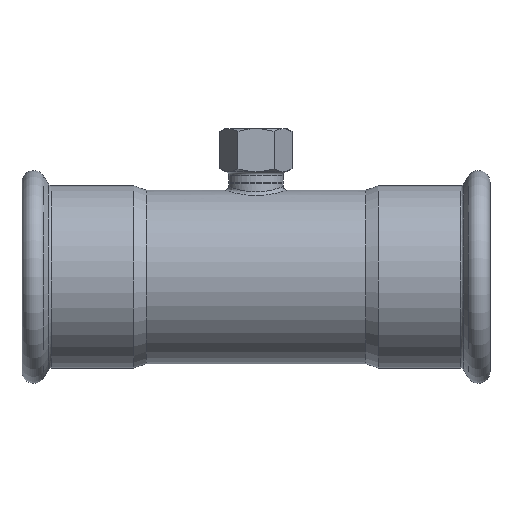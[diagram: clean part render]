
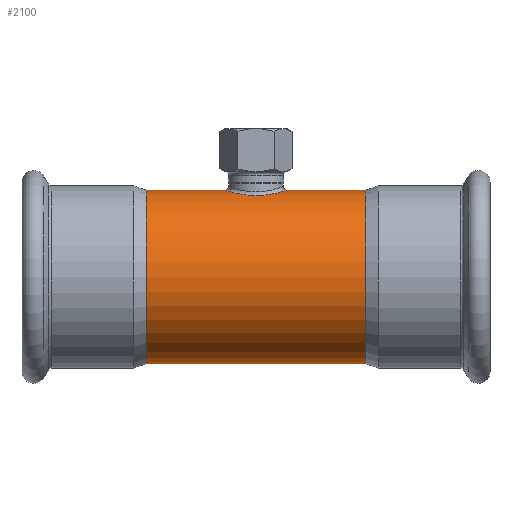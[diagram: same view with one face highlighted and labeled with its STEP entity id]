
A CAD part, top view. The second image highlights one B-rep face of the part: STEP entity #2100.
In plain terms, the highlighted cylindrical face has radius 44.45 mm (diameter 88.9 mm), a full revolution.
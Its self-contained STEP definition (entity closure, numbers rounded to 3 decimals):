
#1911=CARTESIAN_POINT('',(0.,41.73,15.311));
#1912=VERTEX_POINT('',#1911);
#1985=CARTESIAN_POINT('',(0.,41.73,15.311));
#1986=CARTESIAN_POINT('',(0.45,41.73,15.311));
#1987=CARTESIAN_POINT('',(1.051,41.739,15.287));
#1988=CARTESIAN_POINT('',(2.249,41.78,15.173));
#1989=CARTESIAN_POINT('',(4.17,41.894,14.86));
#1990=CARTESIAN_POINT('',(6.315,42.146,14.14));
#1991=CARTESIAN_POINT('',(7.898,42.406,13.326));
#1992=CARTESIAN_POINT('',(8.912,42.589,12.733));
#1993=CARTESIAN_POINT('',(10.484,42.903,11.664));
#1994=CARTESIAN_POINT('',(11.903,43.25,10.307));
#1995=CARTESIAN_POINT('',(13.109,43.573,8.805));
#1996=CARTESIAN_POINT('',(13.978,43.818,7.54));
#1997=CARTESIAN_POINT('',(14.94,44.109,5.639));
#1998=CARTESIAN_POINT('',(15.59,44.316,3.633));
#1999=CARTESIAN_POINT('',(15.863,44.405,2.114));
#2000=CARTESIAN_POINT('',(16.015,44.455,0.582));
#2001=CARTESIAN_POINT('',(16.016,44.455,-1.144));
#2002=CARTESIAN_POINT('',(15.684,44.346,-3.248));
#2003=CARTESIAN_POINT('',(15.24,44.204,-4.714));
#2004=CARTESIAN_POINT('',(14.822,44.074,-5.789));
#2005=CARTESIAN_POINT('',(14.42,43.951,-6.666));
#2006=CARTESIAN_POINT('',(13.764,43.757,-7.851));
#2007=CARTESIAN_POINT('',(12.888,43.511,-9.126));
#2008=CARTESIAN_POINT('',(11.881,43.247,-10.288));
#2009=CARTESIAN_POINT('',(10.618,42.943,-11.498));
#2010=CARTESIAN_POINT('',(9.058,42.607,-12.689));
#2011=CARTESIAN_POINT('',(7.003,42.248,-13.83));
#2012=CARTESIAN_POINT('',(4.757,41.958,-14.68));
#2013=CARTESIAN_POINT('',(2.792,41.803,-15.11));
#2014=CARTESIAN_POINT('',(1.203,41.74,-15.282));
#2015=CARTESIAN_POINT('',(-0.003,41.724,-15.326));
#2016=CARTESIAN_POINT('',(-1.208,41.741,-15.282));
#2017=CARTESIAN_POINT('',(-2.797,41.803,-15.109));
#2018=CARTESIAN_POINT('',(-4.764,41.959,-14.678));
#2019=CARTESIAN_POINT('',(-6.629,42.2,-13.971));
#2020=CARTESIAN_POINT('',(-8.027,42.427,-13.261));
#2021=CARTESIAN_POINT('',(-9.375,42.675,-12.449));
#2022=CARTESIAN_POINT('',(-10.622,42.944,-11.494));
#2023=CARTESIAN_POINT('',(-11.744,43.214,-10.419));
#2024=CARTESIAN_POINT('',(-12.772,43.479,-9.276));
#2025=CARTESIAN_POINT('',(-13.748,43.751,-7.911));
#2026=CARTESIAN_POINT('',(-14.601,44.006,-6.322));
#2027=CARTESIAN_POINT('',(-15.184,44.186,-4.906));
#2028=CARTESIAN_POINT('',(-15.694,44.349,-3.183));
#2029=CARTESIAN_POINT('',(-15.956,44.435,-1.528));
#2030=CARTESIAN_POINT('',(-16.015,44.455,0.003));
#2031=CARTESIAN_POINT('',(-15.97,44.44,1.157));
#2032=CARTESIAN_POINT('',(-15.81,44.388,2.497));
#2033=CARTESIAN_POINT('',(-15.481,44.281,3.993));
#2034=CARTESIAN_POINT('',(-14.852,44.082,5.816));
#2035=CARTESIAN_POINT('',(-13.885,43.79,7.721));
#2036=CARTESIAN_POINT('',(-12.321,43.352,9.907));
#2037=CARTESIAN_POINT('',(-10.477,42.901,11.671));
#2038=CARTESIAN_POINT('',(-8.539,42.515,12.985));
#2039=CARTESIAN_POINT('',(-6.977,42.251,13.815));
#2040=CARTESIAN_POINT('',(-5.312,42.028,14.477));
#2041=CARTESIAN_POINT('',(-3.015,41.803,15.114));
#2042=CARTESIAN_POINT('',(-1.2,41.73,15.311));
#2043=CARTESIAN_POINT('',(0.,41.73,15.311));
#2044=B_SPLINE_CURVE_WITH_KNOTS('',3,(#1985,#1986,#1987,#1988,#1989,#1990,#1991,#1992,#1993,#1994,#1995,#1996,#1997,#1998,#1999,#2000,#2001,#2002,#2003,#2004,#2005,#2006,#2007,#2008,#2009,#2010,#2011,#2012,#2013,#2014,#2015,#2016,#2017,#2018,#2019,#2020,#2021,#2022,#2023,#2024,#2025,#2026,#2027,#2028,#2029,#2030,#2031,#2032,#2033,#2034,#2035,#2036,#2037,#2038,#2039,#2040,#2041,#2042,#2043),.UNSPECIFIED.,.T.,.U.,(4,1,1,1,1,1,1,1,1,1,1,1,1,1,1,1,1,1,1,1,1,1,1,1,1,1,1,1,1,1,1,1,1,1,1,1,1,1,1,1,1,1,1,1,1,1,1,1,1,1,1,1,1,1,1,1,4),(-8.501,-8.387,-8.349,-8.197,-7.893,-7.78,-7.742,-7.59,-7.286,-7.236,-7.084,-6.881,-6.679,-6.527,-6.477,-6.274,-6.072,-5.92,-5.869,-5.768,-5.667,-5.515,-5.364,-5.262,-5.06,-4.858,-4.655,-4.453,-4.352,-4.25,-4.149,-4.048,-3.846,-3.643,-3.542,-3.441,-3.238,-3.137,-3.036,-2.834,-2.699,-2.564,-2.429,-2.226,-2.125,-2.024,-1.923,-1.771,-1.619,-1.417,-1.214,-0.911,-0.759,-0.607,-0.455,-0.304,0.0),.UNSPECIFIED.);
#2045=EDGE_CURVE('',#1912,#1912,#2044,.T.);
#2070=CARTESIAN_POINT('',(0.,0.,0.0));
#2071=DIRECTION('',(1.0,0.,0.0));
#2072=DIRECTION('',(0.0,1.0,0.0));
#2073=AXIS2_PLACEMENT_3D('',#2070,#2071,#2072);
#2074=CYLINDRICAL_SURFACE('',#2073,44.45);
#2075=CARTESIAN_POINT('',(-56.328,44.45,0.0));
#2076=VERTEX_POINT('',#2075);
#2077=CARTESIAN_POINT('',(-56.328,0.,0.0));
#2078=DIRECTION('',(1.0,0.0,0.0));
#2079=DIRECTION('',(0.0,1.0,0.0));
#2080=AXIS2_PLACEMENT_3D('',#2077,#2078,#2079);
#2081=CIRCLE('',#2080,44.45);
#2082=EDGE_CURVE('',#2076,#2076,#2081,.T.);
#2083=ORIENTED_EDGE('',*,*,#2082,.T.);
#2084=EDGE_LOOP('',(#2083));
#2085=FACE_OUTER_BOUND('',#2084,.T.);
#2086=CARTESIAN_POINT('',(56.328,44.45,0.0));
#2087=VERTEX_POINT('',#2086);
#2088=CARTESIAN_POINT('',(56.328,0.,0.0));
#2089=DIRECTION('',(1.0,0.0,0.0));
#2090=DIRECTION('',(0.0,1.0,0.0));
#2091=AXIS2_PLACEMENT_3D('',#2088,#2089,#2090);
#2092=CIRCLE('',#2091,44.45);
#2093=EDGE_CURVE('',#2087,#2087,#2092,.T.);
#2094=ORIENTED_EDGE('',*,*,#2093,.F.);
#2095=EDGE_LOOP('',(#2094));
#2096=FACE_BOUND('',#2095,.T.);
#2097=ORIENTED_EDGE('',*,*,#2045,.F.);
#2098=EDGE_LOOP('',(#2097));
#2099=FACE_BOUND('',#2098,.T.);
#2100=ADVANCED_FACE('',(#2085,#2096,#2099),#2074,.T.);
